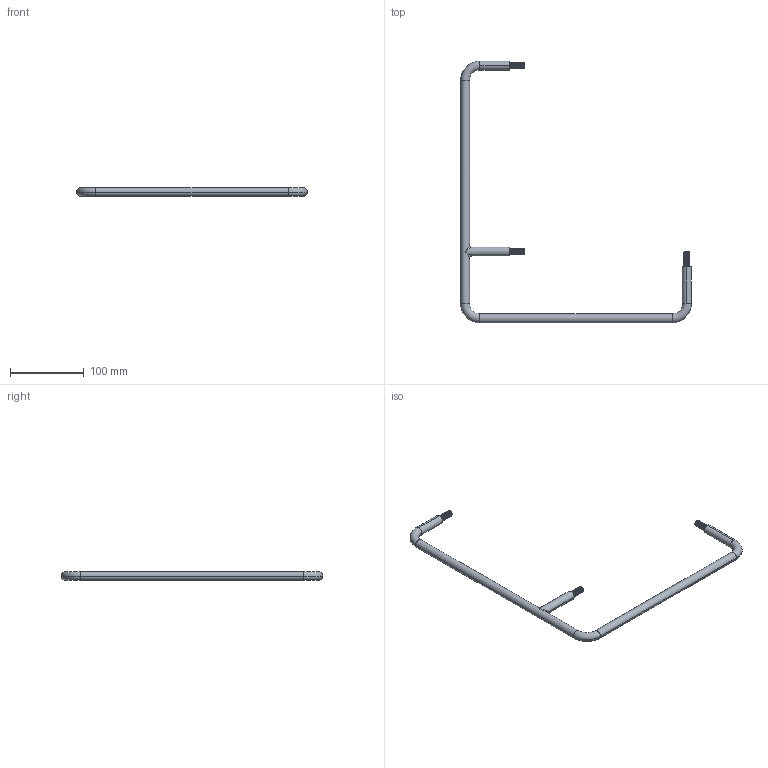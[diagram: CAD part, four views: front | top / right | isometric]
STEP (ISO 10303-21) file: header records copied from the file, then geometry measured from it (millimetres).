
FILE_DESCRIPTION (( 'STEP AP203' ), '1' );
FILE_NAME ('KA-1235-4.STEP', '2010-02-25T06:44:15', ( ' ' ), ( '' ), 'SwSTEP 2.0', 'SolidWorks 2010', '' );
FILE_SCHEMA (( 'CONFIG_CONTROL_DESIGN' ));
Length unit declared in the file: millimetre
Products named in the file (1): KA-1235-4
Bounding box: 312 x 354 x 12 mm (x, y, z)
Volume: 93415.3 mm3; surface area: 32666.5 mm2
Topology: 1 solids, 1 shells, 144 faces, 411 edges, 268 vertices
Faces by surface type: cylinder 118, bspline 11, plane 9, torus 6
Entity records: 18169 total; most frequent: CARTESIAN_POINT 15075, ORIENTED_EDGE 814, DIRECTION 473, EDGE_CURVE 407, VERTEX_POINT 268, AXIS2_PLACEMENT_3D 177, EDGE_LOOP 147, ADVANCED_FACE 144
